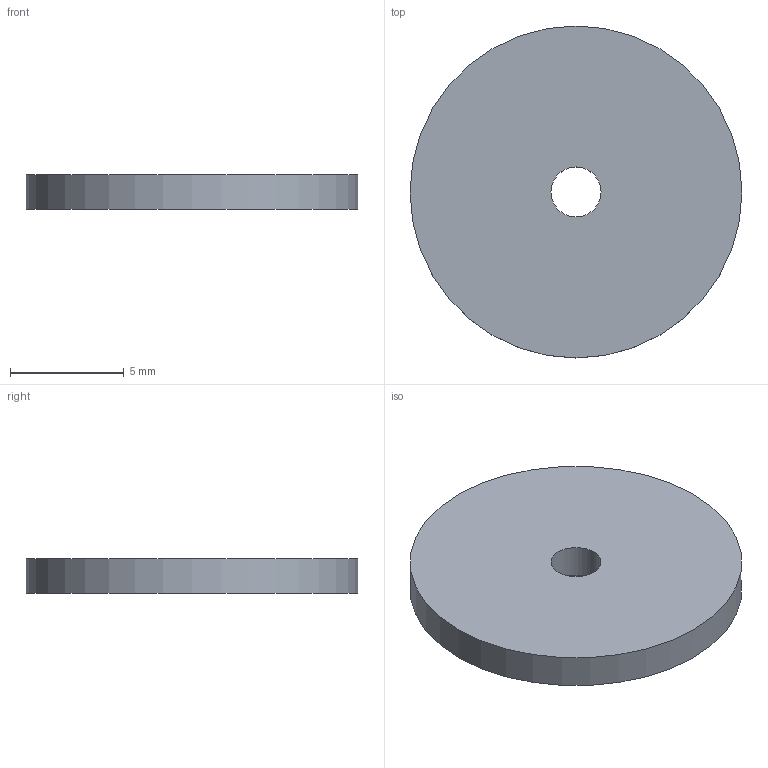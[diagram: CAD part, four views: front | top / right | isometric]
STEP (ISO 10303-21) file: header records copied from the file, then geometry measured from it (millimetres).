
FILE_DESCRIPTION(('Open CASCADE Model'),'2;1');
FILE_NAME('Open CASCADE Shape Model','2026-10-18T19:44:56',('Author'),( 'Open CASCADE'),'Open CASCADE STEP processor 7.9','Open CASCADE 7.9' ,'Unknown');
FILE_SCHEMA(('AUTOMOTIVE_DESIGN { 1 0 10303 214 1 1 1 1 }'));
Length unit declared in the file: millimetre
Products named in the file (1): Open CASCADE STEP translator 7.9 9
Bounding box: 14.6 x 14.6 x 1.5 mm (x, y, z)
Volume: 245.4 mm3; surface area: 406.4 mm2
Topology: 1 solids, 1 shells, 4 faces, 6 edges, 4 vertices
Faces by surface type: cylinder 2, plane 2
Full cylindrical faces by diameter (mm): 2.2 x1, 14.6 x1
Entity records: 192 total; most frequent: CARTESIAN_POINT 39, DIRECTION 30, ORIENTED_EDGE 12, PCURVE 12, DEFINITIONAL_REPRESENTATION 12, LINE 10, VECTOR 10, AXIS2_PLACEMENT_3D 9
